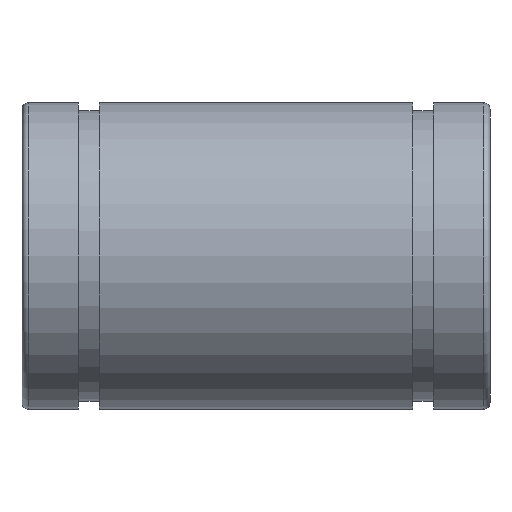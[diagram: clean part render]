
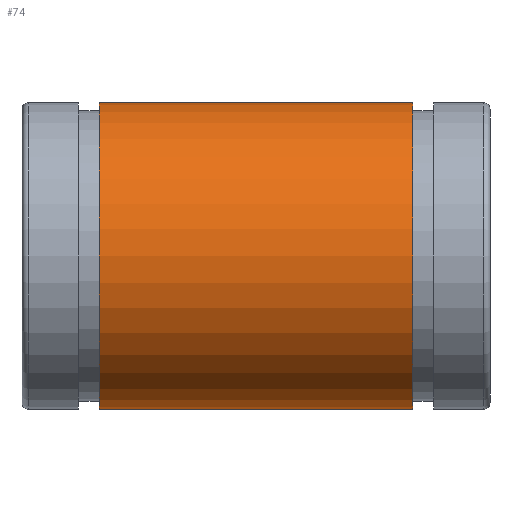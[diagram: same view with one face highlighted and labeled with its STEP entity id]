
A CAD part, front view. The second image highlights one B-rep face of the part: STEP entity #74.
In plain terms, the highlighted cylindrical face has radius 9.5 mm (diameter 19 mm), a full revolution.
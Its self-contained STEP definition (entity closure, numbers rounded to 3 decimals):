
#74 = ADVANCED_FACE( '', ( #159, #160 ), #161, .T. );
#159 = FACE_OUTER_BOUND( '', #238, .T. );
#160 = FACE_OUTER_BOUND( '', #239, .T. );
#161 = CYLINDRICAL_SURFACE( '', #240, 9.5 );
#238 = EDGE_LOOP( '', ( #343 ) );
#239 = EDGE_LOOP( '', ( #344 ) );
#240 = AXIS2_PLACEMENT_3D( '', #345, #346, #347 );
#343 = ORIENTED_EDGE( '', *, *, #372, .F. );
#344 = ORIENTED_EDGE( '', *, *, #376, .T. );
#345 = CARTESIAN_POINT( '', ( 14.5, 0., 0. ) );
#346 = DIRECTION( '', ( -1., 0., 0. ) );
#347 = DIRECTION( '', ( 0., 1., 0. ) );
#372 = EDGE_CURVE( '', #419, #419, #420, .T. );
#376 = EDGE_CURVE( '', #425, #425, #426, .T. );
#419 = VERTEX_POINT( '', #473 );
#420 = CIRCLE( '', #474, 9.5 );
#425 = VERTEX_POINT( '', #479 );
#426 = CIRCLE( '', #480, 9.5 );
#473 = CARTESIAN_POINT( '', ( 4.8, 9.5, 0. ) );
#474 = AXIS2_PLACEMENT_3D( '', #531, #532, #533 );
#479 = CARTESIAN_POINT( '', ( 24.2, 9.5, 0. ) );
#480 = AXIS2_PLACEMENT_3D( '', #537, #538, #539 );
#531 = CARTESIAN_POINT( '', ( 4.8, 0., 0. ) );
#532 = DIRECTION( '', ( -1., 0., 0. ) );
#533 = DIRECTION( '', ( 0., 1., 0. ) );
#537 = CARTESIAN_POINT( '', ( 24.2, 0., 0. ) );
#538 = DIRECTION( '', ( -1., 0., 0. ) );
#539 = DIRECTION( '', ( 0., 1., 0. ) );
